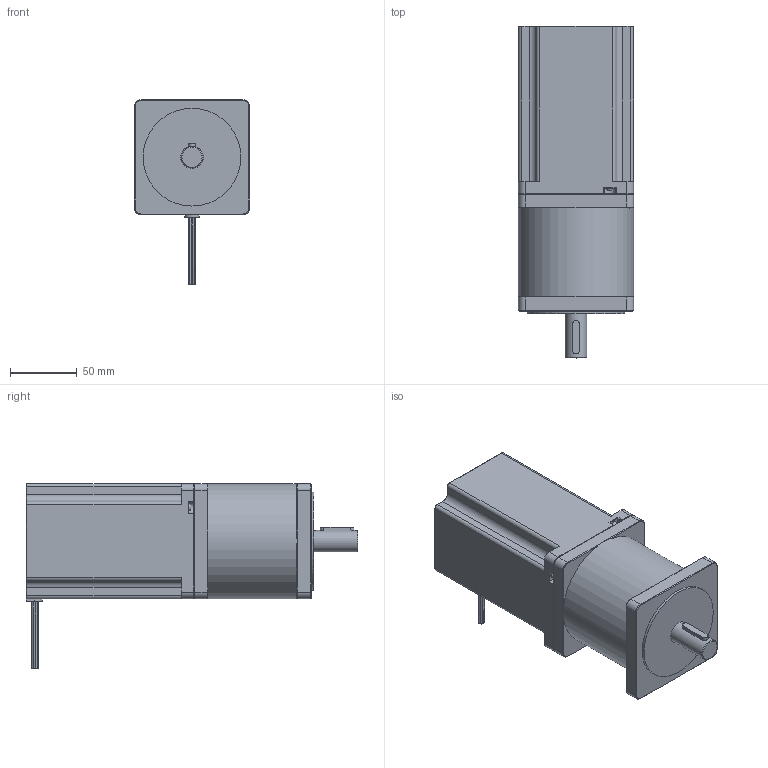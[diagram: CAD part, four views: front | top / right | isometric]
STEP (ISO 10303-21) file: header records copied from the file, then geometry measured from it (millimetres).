
FILE_DESCRIPTION(/* description */ (''),/* implementation_level */ '2;1');
FILE_NAME(/* name */ 'JK86HS126-2408PL100.prt.step',/* time_stamp */ '2019-12-06T14:27:21+08:00',/* author */ (''),/* organization */ (''),/* preprocessor_version */ 'ST-DEVELOPER v14',/* originating_system */ 'SIEMENS PLM Software NX 8.0',/* authorisation */ '');
FILE_SCHEMA (('AUTOMOTIVE_DESIGN { 1 0 10303 214 3 1 1 1 }'));
Length unit declared in the file: millimetre
Products named in the file (1): JK86HS126-2408PL100
Bounding box: 86 x 247.9 x 138 mm (x, y, z)
Volume: 1401312.5 mm3; surface area: 109236.3 mm2
Topology: 2 solids, 6 shells, 324 faces, 770 edges, 482 vertices
Faces by surface type: plane 215, cylinder 64, cone 41, bspline 4
Full cylindrical faces by diameter (mm): 1.234 x8, 3.3 x8, 5.249 x4, 6 x1, 6.5 x4, 15 x1, 16 x1, 17 x2, 18 x1, 73 x2, 86 x1
Entity records: 9547 total; most frequent: CARTESIAN_POINT 2373, DIRECTION 1477, ORIENTED_EDGE 1392, EDGE_CURVE 696, AXIS2_PLACEMENT_3D 518, VERTEX_POINT 456, LINE 441, VECTOR 441
